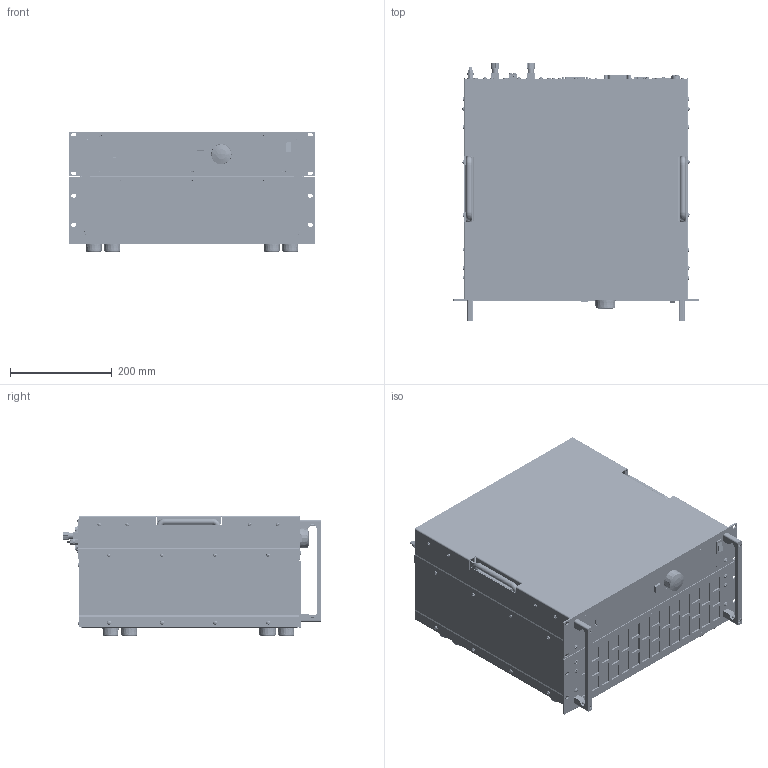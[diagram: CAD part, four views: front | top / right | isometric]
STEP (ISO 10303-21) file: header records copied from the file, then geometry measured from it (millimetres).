
FILE_DESCRIPTION(('STEP AP214'),'1');
FILE_NAME('QL_M11_5HE_BPK4_30L_3D_01.step','2021-11-30T09:38:09',(' '),(' '),'Spatial InterOp 3D',' ',' ');
FILE_SCHEMA(('AUTOMOTIVE_DESIGN { 1 0 10303 214 1 1 1 1 }'));
Length unit declared in the file: millimetre
Products named in the file (35): 3HE_Leistungsteil_mit_Gummifüssen_3D_01; *U557; *U558; *U559; *U568; AutoCreatedBlock_3361; Steuereinheit_BPK4_30L_mit_BG441_3D_01; 2121_Steuerteil_modular_Seitenteil_links_3D_02; 2122_Steuerteil_modular_Seitenteil_rechts_3D_02; A$C5EF2ED09; 3xM2.5_5x5x12; AutoCreatedBlock_3397; A$C6092449D; Frontplatte_5HE_Steuerteil_mit_Einbauten_3D; A$C60925E47; A$C60A76697; BG441_mit_MT1955_3D_01; *U258; AutoCreatedBlock_3409; 2246_QL Rückwand Steuerteil 5HE_mit_Einbauten_3D_01; *U219; *U220; *U221; AutoCreatedBlock_3413; 2257_QL_IO Panel Standard_3D_01; 2084_IO-Port Abdeckung_3D_01; *U783; *U784; *U785; *U786; *U787; AutoCreatedBlock_3387; DIN 966-A; AutoCreatedBlock_3357
Assembly tree (118 placements, depth 4):
  (unnamed)
    3HE_Leistungsteil_mit_Gummifüssen_3D_01
      *U557  x10
      *U558  x6
      *U559  x6
      *U568  x6
      AutoCreatedBlock_3361
    Steuereinheit_BPK4_30L_mit_BG441_3D_01
      2121_Steuerteil_modular_Seitenteil_links_3D_02
      2122_Steuerteil_modular_Seitenteil_rechts_3D_02
      A$C5EF2ED09
        3xM2.5_5x5x12  x2
        AutoCreatedBlock_3397
      A$C6092449D
      Frontplatte_5HE_Steuerteil_mit_Einbauten_3D
      A$C60925E47
      A$C60A76697
      BG441_mit_MT1955_3D_01
        *U258  x2
        AutoCreatedBlock_3409
      2246_QL Rückwand Steuerteil 5HE_mit_Einbauten_3D_01
        *U219
        *U220  x2
        *U221  x3
        AutoCreatedBlock_3413
      2257_QL_IO Panel Standard_3D_01
      2084_IO-Port Abdeckung_3D_01  x2
      *U783  x17
      *U784  x9
      *U785  x26
      *U786  x2
      *U787  x4
      AutoCreatedBlock_3387
    DIN 966-A  x2
    AutoCreatedBlock_3357
Bounding box: 482.6 x 506.25 x 237.87 mm (x, y, z)
Volume: 23993803.3 mm3; surface area: 3312899.5 mm2
Topology: 375 solids, 394 shells, 24546 faces, 60102 edges, 37100 vertices
Faces by surface type: plane 10415, cone 9637, cylinder 3542, torus 405, bspline 277, sphere 248, extrusion 22
Entity records: 774001 total; most frequent: CARTESIAN_POINT 145609, DIRECTION 100849, ORIENTED_EDGE 95142, EDGE_CURVE 47685, AXIS2_PLACEMENT_3D 34956, VECTOR 30937, LINE 30915, VERTEX_POINT 29411
